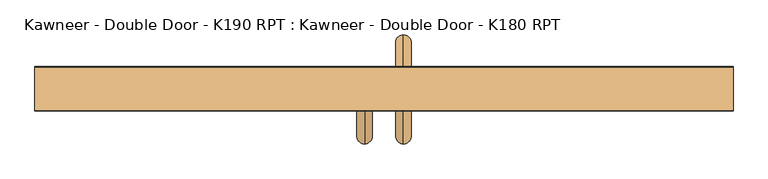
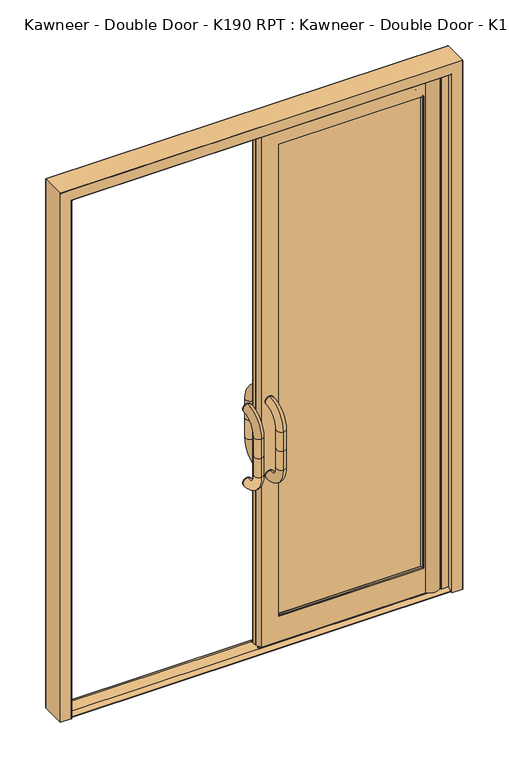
"""IFC4 building model written with IfcOpenShell, lengths in millimetres: door geometry, Kawneer - Double Door - K190 RPT : Kawneer - Double Door - K180 RPT."""

from ifc_helpers import new_model, si_unit, point, frame, frame_2d, origin, origin_with_axes, place, context, project, spatial, polyline, circle_curve, ellipse_curve, trimmed, segment, composite_curve, outline, extrude, faceted_brep, source, transform, mapped, element, save
from ifc_brep_helpers import plane_surface, cylinder_surface, revolved_surface, advanced_brep


def kawneer_double_door_k190_rpt_kawneer_double_door_k180_rpt_f8135a16(model_context):
    return source(origin(), model_context, "Body", "SolidModel", [
        advanced_brep(
        [(50.05, -114.3028137, 910.0), (50.05, -9.45, 805.1471863), (50.05, -9.45, 845.1471863), (50.05, -74.3028137, 910.0), (50.05, -74.3028137, 1000.0), (50.05, -114.3028137, 1000.0), (50.05, -74.3028137, 1090.0), (50.05, -114.3028137, 1090.0), (50.05, -9.45, 1194.8528137), (50.05, -9.45, 1154.8528137), (50.05, -4.45, 805.1471863), (50.05, -4.45, 845.1471863), (50.05, -4.45, 1154.8528137), (50.05, -4.45, 1194.8528137)],
        [
            (0, 1, circle_curve(frame((50.05, -9.45, 910.0), z_axis=(1.0, 0.0, 0.0), x_axis=(0.0, 0.0, -1.0)), 104.8528137)),
            (1, 2, circle_curve(frame((50.05, -9.45, 825.1471863), z_axis=(0.0, -1.0, 0.0), x_axis=(0.0, 0.0, -1.0)), 20.0)),
            (2, 3, circle_curve(frame((50.05, -9.45, 910.0), z_axis=(-1.0, 0.0, 0.0), x_axis=(0.0, 0.0, -1.0)), 64.8528137)),
            (3, 0, circle_curve(frame((50.05, -94.3028137, 910.0), z_axis=(0.0, 0.0, -1.0), x_axis=(0.0, -1.0, 0.0)), 20.0)),
            (2, 1, circle_curve(frame((50.05, -9.45, 825.1471863), z_axis=(0.0, -1.0, 0.0), x_axis=(0.0, 0.0, -1.0)), 20.0)),
            (0, 3, circle_curve(frame((50.05, -94.3028137, 910.0), z_axis=(0.0, 0.0, -1.0), x_axis=(0.0, -1.0, 0.0)), 20.0)),
            (3, 4),
            (4, 5, circle_curve(frame((50.05, -94.3028137, 1000.0), z_axis=(0.0, 0.0, -1.0), x_axis=(0.0, -1.0, 0.0)), 20.0)),
            (5, 0),
            (5, 4, circle_curve(frame((50.05, -94.3028137, 1000.0), z_axis=(0.0, 0.0, -1.0), x_axis=(0.0, -1.0, 0.0)), 20.0)),
            (4, 6),
            (6, 7, circle_curve(frame((50.05, -94.3028137, 1090.0), z_axis=(0.0, 0.0, -1.0), x_axis=(0.0, -1.0, 0.0)), 20.0)),
            (7, 5),
            (7, 6, circle_curve(frame((50.05, -94.3028137, 1090.0), z_axis=(0.0, 0.0, -1.0), x_axis=(0.0, -1.0, 0.0)), 20.0)),
            (8, 7, circle_curve(frame((50.05, -9.45, 1090.0), z_axis=(1.0, 0.0, 0.0), x_axis=(0.0, -1.0, 0.0)), 104.8528137)),
            (6, 9, circle_curve(frame((50.05, -9.45, 1090.0), z_axis=(-1.0, 0.0, 0.0), x_axis=(0.0, -1.0, 0.0)), 64.8528137)),
            (9, 8, circle_curve(frame((50.05, -9.45, 1174.8528137), z_axis=(0.0, -1.0, 0.0), x_axis=(0.0, 0.0, 1.0)), 20.0)),
            (8, 9, circle_curve(frame((50.05, -9.45, 1174.8528137), z_axis=(0.0, -1.0, 0.0), x_axis=(0.0, 0.0, 1.0)), 20.0)),
            (10, 11, circle_curve(frame((50.05, -4.45, 825.1471863), z_axis=(0.0, -1.0, 0.0), x_axis=(0.0, 0.0, -1.0)), 20.0)),
            (11, 2),
            (1, 10),
            (11, 10, circle_curve(frame((50.05, -4.45, 825.1471863), z_axis=(0.0, -1.0, 0.0), x_axis=(0.0, 0.0, -1.0)), 20.0)),
            (9, 12),
            (12, 13, circle_curve(frame((50.05, -4.45, 1174.8528137), z_axis=(0.0, -1.0, 0.0), x_axis=(0.0, 0.0, 1.0)), 20.0)),
            (13, 8),
            (13, 12, circle_curve(frame((50.05, -4.45, 1174.8528137), z_axis=(0.0, -1.0, 0.0), x_axis=(0.0, 0.0, 1.0)), 20.0)),
        ],
        [
            revolved_surface(trimmed(ellipse_curve(frame((50.05, -9.45, 825.1471863), z_axis=(0.0, 1.0, 0.0), x_axis=(0.0, 0.0, -1.0)), 20.0, 20.0), [point((50.05, -9.45, 845.1471863))], [point((50.05, -9.45, 805.1471863))], True, "CARTESIAN"), (50.05, -9.45, 910.0), (-1.0, 0.0, 0.0)),
            revolved_surface(trimmed(ellipse_curve(frame((50.05, -9.45, 825.1471863), z_axis=(0.0, 1.0, 0.0), x_axis=(0.0, 0.0, -1.0)), 20.0, 20.0), [point((50.05, -9.45, 805.1471863))], [point((50.05, -9.45, 845.1471863))], True, "CARTESIAN"), (50.05, -9.45, 910.0), (-1.0, 0.0, 0.0)),
            cylinder_surface(frame((50.05, -94.3028137, 910.0), z_axis=(0.0, 0.0, -1.0), x_axis=(0.0, -1.0, 0.0)), 20.0),
            cylinder_surface(frame((50.05, -94.3028137, 1000.0), z_axis=(0.0, 0.0, -1.0), x_axis=(0.0, -1.0, 0.0)), 20.0),
            revolved_surface(trimmed(ellipse_curve(frame((50.05, -94.3028137, 1090.0), z_axis=(0.0, 0.0, -1.0), x_axis=(0.0, -1.0, 0.0)), 20.0, 20.0), [point((50.05, -74.3028137, 1090.0))], [point((50.05, -114.3028137, 1090.0))], True, "CARTESIAN"), (50.05, -9.45, 1090.0), (-1.0, 0.0, 0.0)),
            revolved_surface(trimmed(ellipse_curve(frame((50.05, -94.3028137, 1090.0), z_axis=(0.0, 0.0, -1.0), x_axis=(0.0, -1.0, 0.0)), 20.0, 20.0), [point((50.05, -114.3028137, 1090.0))], [point((50.05, -74.3028137, 1090.0))], True, "CARTESIAN"), (50.05, -9.45, 1090.0), (-1.0, 0.0, 0.0)),
            cylinder_surface(frame((50.05, -4.45, 825.1471863), z_axis=(0.0, 1.0, 0.0), x_axis=(0.0, 0.0, -1.0)), 20.0),
            cylinder_surface(frame((50.05, -9.45, 1174.8528137), z_axis=(0.0, -1.0, 0.0), x_axis=(0.0, 0.0, 1.0)), 20.0),
            plane_surface(frame((50.05, -4.45, 825.1471863), z_axis=(0.0, 1.0, 0.0), x_axis=(-1.0, 0.0, 0.0))),
            plane_surface(frame((50.05, -4.45, 1174.8528137), z_axis=(0.0, 1.0, 0.0), x_axis=(-1.0, 0.0, 0.0))),
        ],
        [
            (0, [[1, 2, 3, 4]]),
            (1, [[-3, 5, -1, 6]]),
            (2, [[-4, 7, 8, 9]]),
            (2, [[-6, -9, 10, -7]]),
            (3, [[-8, 11, 12, 13]]),
            (3, [[-10, -13, 14, -11]]),
            (4, [[15, -12, 16, 17]]),
            (5, [[-16, -14, -15, 18]]),
            (6, [[19, 20, -2, 21]]),
            (6, [[22, -21, -5, -20]]),
            (7, [[-17, 23, 24, 25]]),
            (7, [[-18, -25, 26, -23]]),
            (8, [[-19, -22]]),
            (9, [[-26, -24]]),
        ],
    ),
        advanced_brep(
        [(50.05, 167.3528137, 910.0), (50.05, 127.3528137, 910.0), (50.05, 62.5, 845.1471863), (50.05, 62.5, 805.1471863), (50.05, 167.3528137, 1000.0), (50.05, 127.3528137, 1000.0), (50.05, 167.3528137, 1090.0), (50.05, 127.3528137, 1090.0), (50.05, 62.5, 1194.8528137), (50.05, 62.5, 1154.8528137), (50.05, 57.5, 805.1471863), (50.05, 57.5, 845.1471863), (50.05, 57.5, 1194.8528137), (50.05, 57.5, 1154.8528137)],
        [
            (0, 1, circle_curve(frame((50.05, 147.3528137, 910.0), z_axis=(0.0, 0.0, -1.0), x_axis=(0.0, 1.0, 0.0)), 20.0)),
            (1, 2, circle_curve(frame((50.05, 62.5, 910.0), z_axis=(-1.0, 0.0, 0.0), x_axis=(0.0, 0.0, -1.0)), 64.8528137)),
            (2, 3, circle_curve(frame((50.05, 62.5, 825.1471863), z_axis=(0.0, 1.0, 0.0), x_axis=(0.0, 0.0, -1.0)), 20.0)),
            (3, 0, circle_curve(frame((50.05, 62.5, 910.0), z_axis=(1.0, 0.0, 0.0), x_axis=(0.0, 0.0, -1.0)), 104.8528137)),
            (1, 0, circle_curve(frame((50.05, 147.3528137, 910.0), z_axis=(0.0, 0.0, -1.0), x_axis=(0.0, 1.0, 0.0)), 20.0)),
            (3, 2, circle_curve(frame((50.05, 62.5, 825.1471863), z_axis=(0.0, 1.0, 0.0), x_axis=(0.0, 0.0, -1.0)), 20.0)),
            (0, 4),
            (4, 5, circle_curve(frame((50.05, 147.3528137, 1000.0), z_axis=(0.0, 0.0, -1.0), x_axis=(0.0, 1.0, 0.0)), 20.0)),
            (5, 1),
            (5, 4, circle_curve(frame((50.05, 147.3528137, 1000.0), z_axis=(0.0, 0.0, -1.0), x_axis=(0.0, 1.0, 0.0)), 20.0)),
            (4, 6),
            (6, 7, circle_curve(frame((50.05, 147.3528137, 1090.0), z_axis=(0.0, 0.0, -1.0), x_axis=(0.0, 1.0, 0.0)), 20.0)),
            (7, 5),
            (7, 6, circle_curve(frame((50.05, 147.3528137, 1090.0), z_axis=(0.0, 0.0, -1.0), x_axis=(0.0, 1.0, 0.0)), 20.0)),
            (8, 9, circle_curve(frame((50.05, 62.5, 1174.8528137), z_axis=(0.0, 1.0, 0.0), x_axis=(0.0, 0.0, 1.0)), 20.0)),
            (9, 7, circle_curve(frame((50.05, 62.5, 1090.0), z_axis=(-1.0, 0.0, 0.0), x_axis=(0.0, 1.0, 0.0)), 64.8528137)),
            (6, 8, circle_curve(frame((50.05, 62.5, 1090.0), z_axis=(1.0, 0.0, 0.0), x_axis=(0.0, 1.0, 0.0)), 104.8528137)),
            (9, 8, circle_curve(frame((50.05, 62.5, 1174.8528137), z_axis=(0.0, 1.0, 0.0), x_axis=(0.0, 0.0, 1.0)), 20.0)),
            (10, 3),
            (2, 11),
            (11, 10, circle_curve(frame((50.05, 57.5, 825.1471863), z_axis=(0.0, 1.0, 0.0), x_axis=(0.0, 0.0, -1.0)), 20.0)),
            (10, 11, circle_curve(frame((50.05, 57.5, 825.1471863), z_axis=(0.0, 1.0, 0.0), x_axis=(0.0, 0.0, -1.0)), 20.0)),
            (8, 12),
            (12, 13, circle_curve(frame((50.05, 57.5, 1174.8528137), z_axis=(0.0, 1.0, 0.0), x_axis=(0.0, 0.0, 1.0)), 20.0)),
            (13, 9),
            (13, 12, circle_curve(frame((50.05, 57.5, 1174.8528137), z_axis=(0.0, 1.0, 0.0), x_axis=(0.0, 0.0, 1.0)), 20.0)),
        ],
        [
            revolved_surface(trimmed(ellipse_curve(frame((50.05, 62.5, 825.1471863), z_axis=(0.0, 1.0, 0.0), x_axis=(0.0, 0.0, -1.0)), 20.0, 20.0), [point((50.05, 62.5, 845.1471863))], [point((50.05, 62.5, 805.1471863))], True, "CARTESIAN"), (50.05, 62.5, 910.0), (-1.0, 0.0, 0.0)),
            revolved_surface(trimmed(ellipse_curve(frame((50.05, 62.5, 825.1471863), z_axis=(0.0, 1.0, 0.0), x_axis=(0.0, 0.0, -1.0)), 20.0, 20.0), [point((50.05, 62.5, 805.1471863))], [point((50.05, 62.5, 845.1471863))], True, "CARTESIAN"), (50.05, 62.5, 910.0), (-1.0, 0.0, 0.0)),
            cylinder_surface(frame((50.05, 147.3528137, 910.0), z_axis=(0.0, 0.0, -1.0), x_axis=(0.0, 1.0, 0.0)), 20.0),
            cylinder_surface(frame((50.05, 147.3528137, 1000.0), z_axis=(0.0, 0.0, -1.0), x_axis=(0.0, 1.0, 0.0)), 20.0),
            revolved_surface(trimmed(ellipse_curve(frame((50.05, 147.3528137, 1090.0), z_axis=(0.0, 0.0, 1.0), x_axis=(0.0, 1.0, 0.0)), 20.0, 20.0), [point((50.05, 127.3528137, 1090.0))], [point((50.05, 167.3528137, 1090.0))], True, "CARTESIAN"), (50.05, 62.5, 1090.0), (-1.0, 0.0, 0.0)),
            revolved_surface(trimmed(ellipse_curve(frame((50.05, 147.3528137, 1090.0), z_axis=(0.0, 0.0, 1.0), x_axis=(0.0, 1.0, 0.0)), 20.0, 20.0), [point((50.05, 167.3528137, 1090.0))], [point((50.05, 127.3528137, 1090.0))], True, "CARTESIAN"), (50.05, 62.5, 1090.0), (-1.0, 0.0, 0.0)),
            cylinder_surface(frame((50.05, 57.5, 825.1471863), z_axis=(0.0, -1.0, 0.0), x_axis=(0.0, 0.0, -1.0)), 20.0),
            cylinder_surface(frame((50.05, 62.5, 1174.8528137), z_axis=(0.0, 1.0, 0.0), x_axis=(0.0, 0.0, 1.0)), 20.0),
            plane_surface(frame((50.05, 57.5, 825.1471863), z_axis=(0.0, -1.0, 0.0), x_axis=(-1.0, 0.0, 0.0))),
            plane_surface(frame((50.05, 57.5, 1174.8528137), z_axis=(0.0, -1.0, 0.0), x_axis=(-1.0, 0.0, 0.0))),
        ],
        [
            (0, [[1, 2, 3, 4]]),
            (1, [[5, -4, 6, -2]]),
            (2, [[7, 8, 9, -1]]),
            (2, [[-9, 10, -7, -5]]),
            (3, [[11, 12, 13, -8]]),
            (3, [[-13, 14, -11, -10]]),
            (4, [[15, 16, -12, 17]]),
            (5, [[18, -17, -14, -16]]),
            (6, [[19, -3, 20, 21]]),
            (6, [[-20, -6, -19, 22]]),
            (7, [[23, 24, 25, -15]]),
            (7, [[-25, 26, -23, -18]]),
            (8, [[-22, -21]]),
            (9, [[-24, -26]]),
        ],
    ),
        extrude(outline(polyline([(51.1993192, 12.7), (48.3010676, 12.7), (48.7760702, 19.7), (50.7240537, 19.7), (51.1993192, 12.7)])), frame((3.230833, 0.0, 0.0), z_axis=(1.0, 0.0, 0.0), x_axis=(0.0, 1.0, 0.0)), (0.0, 0.0, 1.0), 814.7159948),
        extrude(outline(polyline([(1.8010676, 12.7), (2.2760702, 19.7), (4.2240537, 19.7), (4.6993192, 12.7), (1.8010676, 12.7)])), frame((3.230833, 0.0, 0.0), z_axis=(1.0, 0.0, 0.0), x_axis=(0.0, 1.0, 0.0)), (0.0, 0.0, 1.0), 814.7159948),
        extrude(outline(polyline([(0.0, 33.6207879), (3.230833, 33.6207879), (3.230833, 21.3792121), (0.0, 21.3792121), (0.0, 33.6207879)])), frame((0.0, 0.0, 19.7), z_axis=(0.0, 0.0, 1.0), x_axis=(1.0, 0.0, 0.0)), (0.0, 0.0, 1.0), 2427.155),
        extrude(outline(composite_curve([segment(trimmed(circle_curve(frame_2d((779.85, 27.5)), 45.0), [point((819.211122, 49.3105955))], [point((818.0117287, 51.347064))], True, "CARTESIAN"), True, "CONTINUOUS"), segment(polyline([(818.0117287, 51.347064), (821.4447986, 52.6728674), (822.2348697, 50.9785545), (819.211122, 49.3105955)]), True, "CONTINUOUS")], self_intersect=False)), frame((0.0, 0.0, 19.7), z_axis=(0.0, 0.0, 1.0), x_axis=(1.0, 0.0, 0.0)), (0.0, 0.0, 1.0), 2427.155),
        extrude(outline(composite_curve([segment(polyline([(819.1570135, 5.5920405), (822.243322, 3.8895716), (821.453251, 2.1952588), (817.9468278, 3.5493901)]), True, "CONTINUOUS"), segment(trimmed(circle_curve(frame_2d((779.85, 27.5)), 45.0), [point((817.9468278, 3.5493901))], [point((819.1570135, 5.5920405))], True, "CARTESIAN"), True, "CONTINUOUS")], self_intersect=False)), frame((0.0, 0.0, 19.7), z_axis=(0.0, 0.0, 1.0), x_axis=(1.0, 0.0, 0.0)), (0.0, 0.0, 1.0), 2427.155),
        extrude(outline(polyline([(77.15, 42.7), (752.05, 42.7), (752.05, 33.7), (77.15, 33.7), (77.15, 42.7)])), frame((0.0, 0.0, 124.6999998), z_axis=(0.0, 0.0, 1.0), x_axis=(1.0, 0.0, 0.0)), (0.0, 0.0, 1.0), 2258.7000002),
        extrude(outline(polyline([(77.15, 17.7), (752.05, 17.7), (752.05, 8.7), (77.15, 8.7), (77.15, 17.7)])), frame((0.0, 0.0, 124.6999998), z_axis=(0.0, 0.0, 1.0), x_axis=(1.0, 0.0, 0.0)), (0.0, 0.0, 1.0), 2258.7000002),
        faceted_brep([(740.05, 33.7, 136.7), (89.15, 33.7, 136.7), (89.15, 26.9, 136.7), (740.05, 26.9, 136.7), (752.05, 17.7, 124.7), (77.15, 17.7, 124.7), (77.15, 33.7, 124.7), (752.05, 33.7, 124.7), (740.05, 24.5, 136.7), (89.15, 24.5, 136.7), (89.15, 17.7, 136.7), (740.05, 17.7, 136.7), (741.25, 25.7, 135.5), (87.95, 25.7, 135.5), (89.15, 33.7, 2371.4), (740.05, 33.7, 2371.4), (740.05, 26.9, 2371.4), (89.15, 26.9, 2371.4), (77.15, 17.7, 2383.4), (752.05, 17.7, 2383.4), (752.05, 33.7, 2383.4), (77.15, 33.7, 2383.4), (89.15, 24.5, 2371.4), (740.05, 24.5, 2371.4), (740.05, 17.7, 2371.4), (89.15, 17.7, 2371.4), (87.95, 25.7, 2372.6), (741.25, 25.7, 2372.6)], [[[0, 1, 2, 3]], [[4, 5, 6, 7]], [[8, 9, 10, 11]], [[12, 13, 9, 8]], [[3, 2, 13, 12]], [[14, 15, 16, 17]], [[18, 19, 20, 21]], [[22, 23, 24, 25]], [[26, 27, 23, 22]], [[17, 16, 27, 26]], [[15, 0, 3, 16]], [[19, 4, 7, 20]], [[23, 8, 11, 24]], [[27, 12, 8, 23]], [[16, 3, 12, 27]], [[1, 14, 17, 2]], [[21, 20, 7, 6], [14, 1, 0, 15]], [[5, 18, 21, 6]], [[18, 5, 4, 19], [25, 24, 11, 10]], [[9, 22, 25, 10]], [[13, 26, 22, 9]], [[2, 17, 26, 13]]]),
        advanced_brep(
        [(734.2718271, 7.6752861, 142.4781729), (94.9281729, 7.6752861, 142.4781729), (89.6712771, 3.75, 137.2212771), (739.5287229, 3.75, 137.2212771), (734.3853911, 8.7, 142.3646089), (94.8146089, 8.7, 142.3646089), (749.3, 3.75, 127.45), (79.9, 3.75, 127.45), (79.9, 8.7, 127.45), (749.3, 8.7, 127.45), (94.9281729, 7.6752861, 2365.6218271), (734.2718271, 7.6752861, 2365.6218271), (739.5287229, 3.75, 2370.8787229), (89.6712771, 3.75, 2370.8787229), (94.8146089, 8.7, 2365.7353911), (734.3853911, 8.7, 2365.7353911), (79.9, 3.75, 2380.65), (749.3, 3.75, 2380.65), (749.3, 8.7, 2380.65), (79.9, 8.7, 2380.65)],
        [
            (0, 1),
            (1, 2),
            (2, 3),
            (3, 0),
            (4, 5),
            (5, 1, ellipse_curve(frame((94.5662313, 8.1538237, 142.1162313), z_axis=(0.7071067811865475, 0.0, -0.7071067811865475), x_axis=(0.7071067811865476, 0.0, 0.7071067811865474)), 0.8485281, 0.6)),
            (0, 4, ellipse_curve(frame((734.6337687, 8.1538237, 142.1162313), z_axis=(-0.7071067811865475, 0.0, -0.7071067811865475), x_axis=(0.7071067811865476, 0.0, -0.7071067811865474)), 0.8485281, 0.6)),
            (6, 7),
            (7, 8),
            (8, 9),
            (9, 6),
            (10, 11),
            (11, 12),
            (12, 13),
            (13, 10),
            (14, 15),
            (15, 11, ellipse_curve(frame((734.6337687, 8.1538237, 2365.9837687), z_axis=(-0.7071067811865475, 0.0, 0.7071067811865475), x_axis=(-0.7071067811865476, 0.0, -0.7071067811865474)), 0.8485281, 0.6)),
            (10, 14, ellipse_curve(frame((94.5662313, 8.1538237, 2365.9837687), z_axis=(0.7071067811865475, 0.0, 0.7071067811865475), x_axis=(-0.7071067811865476, 0.0, 0.7071067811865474)), 0.8485281, 0.6)),
            (16, 17),
            (17, 18),
            (18, 19),
            (19, 16),
            (11, 0),
            (3, 12),
            (15, 4),
            (17, 6),
            (9, 18),
            (16, 7),
            (2, 13),
            (1, 10),
            (5, 14),
            (8, 19),
        ],
        [
            plane_surface(frame((739.5287229, 3.75, 137.2212771), z_axis=(0.0, -0.8012701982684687, 0.5983026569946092), x_axis=(-1.0, 0.0, 0.0))),
            cylinder_surface(frame((738.85, 8.1538237, 142.1162313), z_axis=(1.0, 0.0, 0.0), x_axis=(0.0, 0.0, 1.0)), 0.6),
            plane_surface(frame((749.3, 8.7, 127.45), z_axis=(0.0, 0.0, -1.0), x_axis=(-1.0, 0.0, 0.0))),
            plane_surface(frame((89.6712771, 3.75, 2370.8787229), z_axis=(0.0, -0.8012701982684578, -0.5983026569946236), x_axis=(1.0, 0.0, 0.0))),
            cylinder_surface(frame((90.35, 8.1538237, 2365.9837687), z_axis=(-1.0, 0.0, 0.0), x_axis=(0.0, 0.0, -1.0)), 0.6),
            plane_surface(frame((79.9, 8.7, 2380.65), z_axis=(0.0, 0.0, 1.0), x_axis=(1.0, 0.0, 0.0))),
            plane_surface(frame((739.5287229, 3.75, 2370.8787229), z_axis=(-0.5983026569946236, -0.8012701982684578, 0.0), x_axis=(0.0, 0.0, -1.0))),
            cylinder_surface(frame((734.6337687, 8.1538237, 2370.2), z_axis=(0.0, 0.0, 1.0), x_axis=(-1.0, 0.0, 0.0)), 0.6),
            plane_surface(frame((749.3, 8.7, 2380.65), z_axis=(1.0, 0.0, 0.0), x_axis=(0.0, 0.0, -1.0))),
            plane_surface(frame((79.9, 3.75, 127.45), z_axis=(0.0, -1.0, 0.0), x_axis=(0.0, 0.0, 1.0))),
            plane_surface(frame((89.6712771, 3.75, 137.2212771), z_axis=(0.5983026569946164, -0.8012701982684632, 0.0), x_axis=(0.0, 0.0, 1.0))),
            cylinder_surface(frame((94.5662313, 8.1538237, 137.9), z_axis=(0.0, 0.0, -1.0), x_axis=(1.0, 0.0, 0.0)), 0.6),
            plane_surface(frame((94.8146089, 8.7, 142.3646089), z_axis=(0.0, 1.0, 0.0), x_axis=(0.0, 0.0, 1.0))),
            plane_surface(frame((79.9, 8.7, 127.45), z_axis=(-1.0, 0.0, 0.0), x_axis=(0.0, 0.0, 1.0))),
        ],
        [
            (0, [[1, 2, 3, 4]]),
            (1, [[5, 6, -1, 7]]),
            (2, [[8, 9, 10, 11]]),
            (3, [[12, 13, 14, 15]]),
            (4, [[16, 17, -12, 18]]),
            (5, [[19, 20, 21, 22]]),
            (6, [[23, -4, 24, -13]]),
            (7, [[25, -7, -23, -17]]),
            (8, [[26, -11, 27, -20]]),
            (9, [[28, -8, -26, -19], [-14, -24, -3, 29]]),
            (10, [[30, -15, -29, -2]]),
            (11, [[31, -18, -30, -6]]),
            (12, [[-21, -27, -10, 32], [-31, -5, -25, -16]]),
            (13, [[-28, -22, -32, -9]]),
        ],
    ),
        advanced_brep(
        [(749.3, 42.7, 127.45), (79.9, 42.7, 127.45), (79.9, 47.65, 127.45), (749.3, 47.65, 127.45), (734.2718271, 43.7247139, 142.4781729), (94.9281729, 43.7247139, 142.4781729), (94.8146089, 42.7, 142.3646089), (734.3853911, 42.7, 142.3646089), (739.5287229, 47.65, 137.2212771), (89.6712771, 47.65, 137.2212771), (79.9, 42.7, 2380.65), (749.3, 42.7, 2380.65), (749.3, 47.65, 2380.65), (79.9, 47.65, 2380.65), (94.9281729, 43.7247139, 2365.6218271), (734.2718271, 43.7247139, 2365.6218271), (734.3853911, 42.7, 2365.7353911), (94.8146089, 42.7, 2365.7353911), (89.6712771, 47.65, 2370.8787229), (739.5287229, 47.65, 2370.8787229)],
        [
            (0, 1),
            (1, 2),
            (2, 3),
            (3, 0),
            (4, 5),
            (5, 6, ellipse_curve(frame((94.5662313, 43.2461763, 142.1162313), z_axis=(0.7071067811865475, 0.0, -0.7071067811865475), x_axis=(0.7071067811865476, 0.0, 0.7071067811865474)), 0.8485281, 0.6)),
            (6, 7),
            (7, 4, ellipse_curve(frame((734.6337687, 43.2461763, 142.1162313), z_axis=(-0.7071067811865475, 0.0, -0.7071067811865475), x_axis=(0.7071067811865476, 0.0, -0.7071067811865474)), 0.8485281, 0.6)),
            (8, 9),
            (9, 5),
            (4, 8),
            (10, 11),
            (11, 12),
            (12, 13),
            (13, 10),
            (14, 15),
            (15, 16, ellipse_curve(frame((734.6337687, 43.2461763, 2365.9837687), z_axis=(-0.7071067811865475, 0.0, 0.7071067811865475), x_axis=(-0.7071067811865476, 0.0, -0.7071067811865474)), 0.8485281, 0.6)),
            (16, 17),
            (17, 14, ellipse_curve(frame((94.5662313, 43.2461763, 2365.9837687), z_axis=(0.7071067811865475, 0.0, 0.7071067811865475), x_axis=(-0.7071067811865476, 0.0, 0.7071067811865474)), 0.8485281, 0.6)),
            (18, 19),
            (19, 15),
            (14, 18),
            (11, 0),
            (3, 12),
            (15, 4),
            (7, 16),
            (19, 8),
            (1, 10),
            (13, 2),
            (6, 17),
            (5, 14),
            (9, 18),
        ],
        [
            plane_surface(frame((749.3, 47.65, 127.45), z_axis=(0.0, 0.0, -1.0), x_axis=(-1.0, 0.0, 0.0))),
            cylinder_surface(frame((738.85, 43.2461763, 142.1162313), z_axis=(1.0, 0.0, 0.0), x_axis=(0.0, 0.0, 1.0)), 0.6),
            plane_surface(frame((734.2718271, 43.7247139, 142.4781729), z_axis=(0.0, 0.8012701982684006, 0.5983026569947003), x_axis=(-1.0, 0.0, 0.0))),
            plane_surface(frame((79.9, 47.65, 2380.65), z_axis=(0.0, 0.0, 1.0), x_axis=(1.0, 0.0, 0.0))),
            cylinder_surface(frame((90.35, 43.2461763, 2365.9837687), z_axis=(-1.0, 0.0, 0.0), x_axis=(0.0, 0.0, -1.0)), 0.6),
            plane_surface(frame((94.9281729, 43.7247139, 2365.6218271), z_axis=(0.0, 0.8012701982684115, -0.5983026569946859), x_axis=(1.0, 0.0, 0.0))),
            plane_surface(frame((749.3, 47.65, 2380.65), z_axis=(1.0, 0.0, 0.0), x_axis=(0.0, 0.0, -1.0))),
            cylinder_surface(frame((734.6337687, 43.2461763, 2370.2), z_axis=(0.0, 0.0, 1.0), x_axis=(-1.0, 0.0, 0.0)), 0.6),
            plane_surface(frame((734.2718271, 43.7247139, 2365.6218271), z_axis=(-0.5983026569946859, 0.8012701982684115, 0.0), x_axis=(0.0, 0.0, -1.0))),
            plane_surface(frame((79.9, 47.65, 127.45), z_axis=(-1.0, 0.0, 0.0), x_axis=(0.0, 0.0, 1.0))),
            plane_surface(frame((79.9, 42.7, 127.45), z_axis=(0.0, -1.0, 0.0), x_axis=(0.0, 0.0, 1.0))),
            cylinder_surface(frame((94.5662313, 43.2461763, 137.9), z_axis=(0.0, 0.0, -1.0), x_axis=(1.0, 0.0, 0.0)), 0.6),
            plane_surface(frame((94.9281729, 43.7247139, 142.4781729), z_axis=(0.5983026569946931, 0.8012701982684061, 0.0), x_axis=(0.0, 0.0, 1.0))),
            plane_surface(frame((89.6712771, 47.65, 137.2212771), z_axis=(0.0, 1.0, 0.0), x_axis=(0.0, 0.0, 1.0))),
        ],
        [
            (0, [[1, 2, 3, 4]]),
            (1, [[5, 6, 7, 8]]),
            (2, [[9, 10, -5, 11]]),
            (3, [[12, 13, 14, 15]]),
            (4, [[16, 17, 18, 19]]),
            (5, [[20, 21, -16, 22]]),
            (6, [[23, -4, 24, -13]]),
            (7, [[25, -8, 26, -17]]),
            (8, [[27, -11, -25, -21]]),
            (9, [[28, -15, 29, -2]]),
            (10, [[-28, -1, -23, -12], [-18, -26, -7, 30]]),
            (11, [[31, -19, -30, -6]]),
            (12, [[32, -22, -31, -10]]),
            (13, [[-14, -24, -3, -29], [-32, -9, -27, -20]]),
        ],
    ),
        extrude(outline(polyline([(817.55, 58.2), (850.05, 58.2), (850.05, -3.35), (817.55, -3.35), (817.55, -1.85), (819.5669158, -1.85), (833.2180725, 27.425), (819.5669158, 56.7), (817.55, 56.7), (817.55, 58.2)])), origin_with_axes(), (0.0, 0.0, 1.0), 2449.9932215),
        advanced_brep(
        [(822.4481066, 12.9947833, 2446.855), (746.3089803, 57.5, 2446.855), (11.0884758, 57.5, 2446.855), (3.230833, 34.2996735, 2446.855), (3.230833, 20.7003265, 2446.855), (12.2881322, -4.45, 2446.855), (748.1609246, -4.45, 2446.855), (77.15, 3.75, 2446.855), (68.95, 3.75, 2446.855), (68.95, 47.65, 2446.855), (77.15, 47.65, 2446.855), (822.4481066, 12.9947833, 19.7), (748.1609246, -4.45, 19.7), (12.2881322, -4.45, 19.7), (3.230833, 20.7003265, 19.7), (3.230833, 34.2996735, 19.7), (11.0884758, 57.5, 19.7), (746.3089803, 57.5, 19.7), (738.85, -4.45, 137.9), (90.35, -4.45, 137.9), (90.35, -4.45, 2370.2), (738.85, -4.45, 2370.2), (738.85, 3.25, 2370.2), (738.85, 3.25, 137.9), (739.35, 3.75, 2370.7), (739.35, 3.75, 137.4), (77.15, 3.75, 2391.6), (760.25, 3.75, 2391.6), (760.25, 3.75, 116.5), (68.95, 3.75, 116.5), (89.85, 3.75, 2370.7), (89.85, 3.75, 137.4), (760.25, 47.65, 2391.6), (760.25, 47.65, 116.5), (68.95, 47.65, 116.5), (77.15, 47.65, 2391.6), (739.35, 47.65, 137.4), (89.85, 47.65, 137.4), (89.85, 47.65, 2370.7), (739.35, 47.65, 2370.7), (738.85, 48.15, 2370.2), (738.85, 48.15, 137.9), (738.85, 57.5, 2370.2), (738.85, 57.5, 137.9), (90.35, 57.5, 2370.2), (90.35, 57.5, 137.9), (90.35, 3.25, 2370.2), (90.35, 48.15, 2370.2), (90.35, 48.15, 137.9), (90.35, 3.25, 137.9)],
        [
            (0, 1, circle_curve(frame((779.85, 27.5, 2446.855), z_axis=(0.0, 0.0, 1.0), x_axis=(-1.0, 0.0, 0.0)), 45.0)),
            (1, 2),
            (2, 3, circle_curve(frame((62.7112651, 27.0852433, 2446.855), z_axis=(0.0, 0.0, 1.0), x_axis=(-1.0, 0.0, 0.0)), 59.9163567)),
            (3, 4),
            (4, 5, circle_curve(frame((62.7112651, 27.9147567, 2446.855), z_axis=(0.0, 0.0, 1.0), x_axis=(-1.0, 0.0, 0.0)), 59.9163567)),
            (5, 6),
            (6, 0, circle_curve(frame((779.85, 27.5, 2446.855), z_axis=(0.0, 0.0, 1.0), x_axis=(-1.0, 0.0, 0.0)), 45.0)),
            (7, 8),
            (8, 9),
            (9, 10),
            (10, 7),
            (11, 12, circle_curve(frame((779.85, 27.5, 19.7), z_axis=(0.0, 0.0, -1.0), x_axis=(-1.0, 0.0, 0.0)), 45.0)),
            (12, 13),
            (13, 14, circle_curve(frame((62.7112651, 27.9147567, 19.7), z_axis=(0.0, 0.0, -1.0), x_axis=(-1.0, 0.0, 0.0)), 59.9163567)),
            (14, 15),
            (15, 16, circle_curve(frame((62.7112651, 27.0852433, 19.7), z_axis=(0.0, 0.0, -1.0), x_axis=(-1.0, 0.0, 0.0)), 59.9163567)),
            (16, 17),
            (17, 11, circle_curve(frame((779.85, 27.5, 19.7), z_axis=(0.0, 0.0, -1.0), x_axis=(-1.0, 0.0, 0.0)), 45.0)),
            (6, 12),
            (11, 0),
            (5, 13),
            (18, 19),
            (19, 20),
            (20, 21),
            (21, 18),
            (22, 23),
            (23, 18),
            (21, 22),
            (24, 25),
            (25, 23, ellipse_curve(frame((739.35, 3.25, 137.4), z_axis=(0.7071067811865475, 0.0, 0.7071067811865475), x_axis=(-0.7071067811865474, 0.0, 0.7071067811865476)), 0.7071068, 0.5)),
            (22, 24, ellipse_curve(frame((739.35, 3.25, 2370.7), z_axis=(0.7071067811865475, 0.0, -0.7071067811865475), x_axis=(0.7071067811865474, 0.0, 0.7071067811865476)), 0.7071068, 0.5)),
            (26, 27),
            (27, 28),
            (28, 29),
            (29, 8),
            (7, 26),
            (24, 30),
            (30, 31),
            (31, 25),
            (32, 33),
            (33, 28),
            (27, 32),
            (9, 34),
            (34, 33),
            (32, 35),
            (35, 10),
            (36, 37),
            (37, 38),
            (38, 39),
            (39, 36),
            (40, 41),
            (41, 36, ellipse_curve(frame((739.35, 48.15, 137.4), z_axis=(0.7071067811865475, 0.0, 0.7071067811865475), x_axis=(-0.7071067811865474, 0.0, 0.7071067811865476)), 0.7071068, 0.5)),
            (39, 40, ellipse_curve(frame((739.35, 48.15, 2370.7), z_axis=(0.7071067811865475, 0.0, -0.7071067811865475), x_axis=(0.7071067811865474, 0.0, 0.7071067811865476)), 0.7071068, 0.5)),
            (42, 43),
            (43, 41),
            (40, 42),
            (1, 17),
            (16, 2),
            (42, 44),
            (44, 45),
            (45, 43),
            (35, 26),
            (20, 46),
            (46, 22),
            (46, 30, ellipse_curve(frame((89.85, 3.25, 2370.7), z_axis=(0.7071067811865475, 0.0, 0.7071067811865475), x_axis=(-0.7071067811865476, 0.0, 0.7071067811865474)), 0.7071068, 0.5)),
            (38, 47, ellipse_curve(frame((89.85, 48.15, 2370.7), z_axis=(0.7071067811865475, 0.0, 0.7071067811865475), x_axis=(-0.7071067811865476, 0.0, 0.7071067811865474)), 0.7071068, 0.5)),
            (47, 40),
            (47, 44),
            (45, 48),
            (48, 41),
            (48, 37, ellipse_curve(frame((89.85, 48.15, 137.4), z_axis=(0.7071067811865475, 0.0, -0.7071067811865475), x_axis=(-0.7071067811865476, 0.0, -0.7071067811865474)), 0.7071068, 0.5)),
            (34, 29),
            (31, 49, ellipse_curve(frame((89.85, 3.25, 137.4), z_axis=(0.7071067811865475, 0.0, -0.7071067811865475), x_axis=(-0.7071067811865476, 0.0, -0.7071067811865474)), 0.7071068, 0.5)),
            (49, 23),
            (49, 19),
            (47, 48),
            (46, 49),
            (15, 3),
            (4, 14),
        ],
        [
            plane_surface(frame((734.85, 27.5, 2446.855), z_axis=(0.0, 0.0, 1.0), x_axis=(0.0, 1.0, 0.0))),
            plane_surface(frame((734.85, 27.5, 19.7), z_axis=(0.0, 0.0, -1.0), x_axis=(0.0, -1.0, 0.0))),
            cylinder_surface(frame((779.85, 27.5, 19.7), z_axis=(0.0, 0.0, 1.0), x_axis=(-1.0, 0.0, 0.0)), 45.0),
            plane_surface(frame((748.1609246, -4.45, 2446.855), z_axis=(0.0, -1.0, 0.0), x_axis=(0.0, 0.0, -1.0))),
            plane_surface(frame((738.85, -4.45, 2446.855), z_axis=(-1.0, 0.0, 0.0), x_axis=(0.0, 0.0, -1.0))),
            cylinder_surface(frame((739.35, 3.25, 19.7), z_axis=(0.0, 0.0, 1.0), x_axis=(-1.0, 0.0, 0.0)), 0.5),
            plane_surface(frame((739.35, 3.75, 2446.855), z_axis=(0.0, 1.0, 0.0), x_axis=(0.0, 0.0, -1.0))),
            plane_surface(frame((760.25, 3.75, 2446.855), z_axis=(-1.0, 0.0, 0.0), x_axis=(0.0, 0.0, -1.0))),
            plane_surface(frame((760.25, 47.65, 2446.855), z_axis=(0.0, -1.0, 0.0), x_axis=(0.0, 0.0, -1.0))),
            cylinder_surface(frame((739.35, 48.15, 19.7), z_axis=(0.0, 0.0, 1.0), x_axis=(-1.0, 0.0, 0.0)), 0.5),
            plane_surface(frame((738.85, 48.15, 2446.855), z_axis=(-1.0, 0.0, 0.0), x_axis=(0.0, 0.0, -1.0))),
            plane_surface(frame((738.85, 57.5, 2446.855), z_axis=(0.0, 1.0, 0.0), x_axis=(0.0, 0.0, -1.0))),
            plane_surface(frame((77.15, 3.25, 2370.2), z_axis=(-1.0, 0.0, 0.0), x_axis=(0.0, 1.0, 0.0))),
            plane_surface(frame((77.15, -4.45, 2370.2), z_axis=(0.0, 0.0, -1.0), x_axis=(1.0, 0.0, 0.0))),
            cylinder_surface(frame((795.05, 3.25, 2370.7), z_axis=(-1.0, 0.0, 0.0), x_axis=(0.0, 1.0, 0.0)), 0.5),
            plane_surface(frame((77.15, 3.75, 2391.6), z_axis=(0.0, 0.0, -1.0), x_axis=(1.0, 0.0, 0.0))),
            cylinder_surface(frame((795.05, 48.15, 2370.7), z_axis=(-1.0, 0.0, 0.0), x_axis=(0.0, 1.0, 0.0)), 0.5),
            plane_surface(frame((77.15, 48.15, 2370.2), z_axis=(0.0, -3.4165326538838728e-12, -1.0), x_axis=(1.0, 0.0, 0.0))),
            plane_surface(frame((25.05, 57.5, 137.9), z_axis=(0.0, 0.0, 1.0), x_axis=(1.0, 0.0, 0.0))),
            cylinder_surface(frame((795.05, 48.15, 137.4), z_axis=(-1.0, 0.0, 0.0), x_axis=(0.0, 1.0, 0.0)), 0.5),
            plane_surface(frame((25.05, 47.65, 116.5), z_axis=(0.0, 0.0, 1.0), x_axis=(1.0, 0.0, 0.0))),
            cylinder_surface(frame((795.05, 3.25, 137.4), z_axis=(-1.0, 0.0, 0.0), x_axis=(0.0, 1.0, 0.0)), 0.5),
            plane_surface(frame((25.05, 3.25, 137.9), z_axis=(0.0, 0.0, 1.0), x_axis=(1.0, 0.0, 0.0))),
            plane_surface(frame((90.35, 57.5, 2446.855), z_axis=(1.0, 0.0, 0.0), x_axis=(0.0, 0.0, -1.0))),
            cylinder_surface(frame((89.85, 48.15, 19.7), z_axis=(0.0, 0.0, 1.0), x_axis=(-1.0, 0.0, 0.0)), 0.5),
            plane_surface(frame((68.95, 47.65, 2446.855), z_axis=(1.0, 0.0, 0.0), x_axis=(0.0, 0.0, -1.0))),
            cylinder_surface(frame((89.85, 3.25, 19.7), z_axis=(0.0, 0.0, 1.0), x_axis=(-1.0, 0.0, 0.0)), 0.5),
            plane_surface(frame((90.35, 3.25, 2446.855), z_axis=(1.0, 0.0, 0.0), x_axis=(0.0, 0.0, -1.0))),
            cylinder_surface(frame((62.7112651, 27.0852433, 19.7), z_axis=(0.0, 0.0, 1.0), x_axis=(-1.0, 0.0, 0.0)), 59.9163567),
            cylinder_surface(frame((62.7112651, 27.9147567, 19.7), z_axis=(0.0, 0.0, 1.0), x_axis=(-1.0, 0.0, 0.0)), 59.9163567),
            plane_surface(frame((3.230833, 20.7003265, 2446.855), z_axis=(-1.0, 0.0, 0.0), x_axis=(0.0, 0.0, -1.0))),
        ],
        [
            (0, [[1, 2, 3, 4, 5, 6, 7], [8, 9, 10, 11]]),
            (1, [[12, 13, 14, 15, 16, 17, 18]]),
            (2, [[19, -12, 20, -7]]),
            (3, [[-19, -6, 21, -13], [22, 23, 24, 25]]),
            (4, [[26, 27, -25, 28]]),
            (5, [[29, 30, -26, 31]]),
            (6, [[32, 33, 34, 35, -8, 36], [37, 38, 39, -29]]),
            (7, [[40, 41, -33, 42]]),
            (8, [[43, 44, -40, 45, 46, -10], [47, 48, 49, 50]]),
            (9, [[51, 52, -50, 53]]),
            (10, [[54, 55, -51, 56]]),
            (11, [[57, -17, 58, -2], [59, 60, 61, -54]]),
            (2, [[-20, -18, -57, -1]]),
            (12, [[-36, -11, -46, 62]]),
            (13, [[-24, 63, 64, -28]]),
            (14, [[-64, 65, -37, -31]]),
            (15, [[-42, -32, -62, -45]]),
            (16, [[-49, 66, 67, -53]]),
            (17, [[-67, 68, -59, -56]]),
            (18, [[-61, 69, 70, -55]]),
            (19, [[-70, 71, -47, -52]]),
            (20, [[72, -34, -41, -44]]),
            (21, [[-39, 73, 74, -30]]),
            (22, [[-74, 75, -22, -27]]),
            (23, [[-68, 76, -69, -60]]),
            (24, [[-71, -76, -66, -48]]),
            (25, [[-72, -43, -9, -35]]),
            (26, [[-65, 77, -73, -38]]),
            (27, [[-75, -77, -63, -23]]),
            (28, [[-58, -16, 78, -3]]),
            (29, [[79, -14, -21, -5]]),
            (30, [[-78, -15, -79, -4]]),
        ],
    ),
        advanced_brep(
        [(899.5, -30.0, 0.0), (850.5, -30.0, 0.0), (850.0, -29.5, 0.0), (850.0, -24.3, 0.0), (-850.0, -24.3, 0.0), (-850.0, -29.5, 0.0), (-850.5, -30.0, 0.0), (-899.5, -30.0, 0.0), (-900.0, -29.5, 0.0), (-900.0, 84.5, 0.0), (-899.5, 85.0, 0.0), (-850.5, 85.0, 0.0), (-850.0, 84.5, 0.0), (-850.0, 77.3, 0.0), (850.0, 77.3, 0.0), (850.0, 84.5, 0.0), (850.5, 85.0, 0.0), (899.5, 85.0, 0.0), (900.0, 84.5, 0.0), (900.0, -29.5, 0.0), (899.5, -30.0, 2499.5), (-899.5, -30.0, 2499.5), (-850.5, -30.0, 2450.5), (850.5, -30.0, 2450.5), (850.0, -29.5, 2450.0), (850.0, 84.5, 2450.0), (850.0, 77.3, 2.5226623), (850.0, 76.8189993, 3.2563104), (850.0, 55.1, 12.7), (850.0, -2.1, 12.7), (850.0, -23.8189993, 3.2563104), (850.0, -24.3, 2.5226623), (-850.0, -24.3, 2.5226623), (-850.0, 84.5, 2450.0), (-850.0, -29.5, 2450.0), (-850.0, -23.8189993, 3.2563104), (-850.0, -2.1, 12.7), (-850.0, 55.1, 12.7), (-850.0, 76.8189993, 3.2563104), (-850.0, 77.3, 2.5226623), (-900.0, -29.5, 2500.0), (-900.0, 84.5, 2500.0), (-899.5, 85.0, 2499.5), (850.5, 85.0, 2450.5), (-850.5, 85.0, 2450.5), (899.5, 85.0, 2499.5), (900.0, 84.5, 2500.0), (900.0, -29.5, 2500.0)],
        [
            (0, 1),
            (1, 2, circle_curve(frame((850.5, -29.5, 0.0), z_axis=(0.0, 0.0, -1.0), x_axis=(0.0, -1.0, 0.0)), 0.5)),
            (2, 3),
            (3, 4),
            (4, 5),
            (5, 6, circle_curve(frame((-850.5, -29.5, 0.0), z_axis=(0.0, 0.0, -1.0), x_axis=(0.0, -1.0, 0.0)), 0.5)),
            (6, 7),
            (7, 8, circle_curve(frame((-899.5, -29.5, 0.0), z_axis=(0.0, 0.0, -1.0), x_axis=(0.0, -1.0, 0.0)), 0.5)),
            (8, 9),
            (9, 10, circle_curve(frame((-899.5, 84.5, 0.0), z_axis=(0.0, 0.0, -1.0), x_axis=(0.0, -1.0, 0.0)), 0.5)),
            (10, 11),
            (11, 12, circle_curve(frame((-850.5, 84.5, 0.0), z_axis=(0.0, 0.0, -1.0), x_axis=(0.0, -1.0, 0.0)), 0.5)),
            (12, 13),
            (13, 14),
            (14, 15),
            (15, 16, circle_curve(frame((850.5, 84.5, 0.0), z_axis=(0.0, 0.0, -1.0), x_axis=(0.0, -1.0, 0.0)), 0.5)),
            (16, 17),
            (17, 18, circle_curve(frame((899.5, 84.5, 0.0), z_axis=(0.0, 0.0, -1.0), x_axis=(0.0, -1.0, 0.0)), 0.5)),
            (18, 19),
            (19, 0, circle_curve(frame((899.5, -29.5, 0.0), z_axis=(0.0, 0.0, -1.0), x_axis=(0.0, -1.0, 0.0)), 0.5)),
            (0, 20),
            (20, 21),
            (21, 7),
            (6, 22),
            (22, 23),
            (23, 1),
            (23, 24, ellipse_curve(frame((850.5, -29.5, 2450.5), z_axis=(0.7071067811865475, 0.0, -0.7071067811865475), x_axis=(-0.7071067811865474, 0.0, -0.7071067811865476)), 0.7071068, 0.5)),
            (24, 2),
            (24, 25),
            (25, 15),
            (14, 26),
            (26, 27, circle_curve(frame((850.0, 76.5, 2.5226623), z_axis=(1.0, 0.0, 0.0), x_axis=(0.0, 1.0, 0.0)), 0.8)),
            (27, 28),
            (28, 29),
            (29, 30),
            (30, 31, circle_curve(frame((850.0, -23.5, 2.5226623), z_axis=(1.0, 0.0, 0.0), x_axis=(0.0, 1.0, 0.0)), 0.8)),
            (31, 3),
            (31, 32),
            (32, 4),
            (33, 34),
            (34, 5),
            (32, 35, circle_curve(frame((-850.0, -23.5, 2.5226623), z_axis=(-1.0, 0.0, 0.0), x_axis=(0.0, 1.0, 0.0)), 0.8)),
            (35, 36),
            (36, 37),
            (37, 38),
            (38, 39, circle_curve(frame((-850.0, 76.5, 2.5226623), z_axis=(-1.0, 0.0, 0.0), x_axis=(0.0, 1.0, 0.0)), 0.8)),
            (39, 13),
            (12, 33),
            (34, 22, ellipse_curve(frame((-850.5, -29.5, 2450.5), z_axis=(-0.7071067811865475, 0.0, -0.7071067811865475), x_axis=(-0.7071067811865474, 0.0, 0.7071067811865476)), 0.7071068, 0.5)),
            (21, 40, ellipse_curve(frame((-899.5, -29.5, 2499.5), z_axis=(-0.7071067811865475, 0.0, -0.7071067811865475), x_axis=(-0.7071067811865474, 0.0, 0.7071067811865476)), 0.7071068, 0.5)),
            (40, 8),
            (40, 41),
            (41, 9),
            (41, 42, ellipse_curve(frame((-899.5, 84.5, 2499.5), z_axis=(-0.7071067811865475, 0.0, -0.7071067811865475), x_axis=(-0.7071067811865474, 0.0, 0.7071067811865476)), 0.7071068, 0.5)),
            (42, 10),
            (16, 43),
            (43, 44),
            (44, 11),
            (42, 45),
            (45, 17),
            (44, 33, ellipse_curve(frame((-850.5, 84.5, 2450.5), z_axis=(-0.7071067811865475, 0.0, -0.7071067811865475), x_axis=(-0.7071067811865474, 0.0, 0.7071067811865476)), 0.7071068, 0.5)),
            (39, 26),
            (25, 43, ellipse_curve(frame((850.5, 84.5, 2450.5), z_axis=(0.7071067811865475, 0.0, -0.7071067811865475), x_axis=(-0.7071067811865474, 0.0, -0.7071067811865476)), 0.7071068, 0.5)),
            (45, 46, ellipse_curve(frame((899.5, 84.5, 2499.5), z_axis=(0.7071067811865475, 0.0, -0.7071067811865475), x_axis=(-0.7071067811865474, 0.0, -0.7071067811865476)), 0.7071068, 0.5)),
            (46, 18),
            (46, 47),
            (47, 19),
            (47, 20, ellipse_curve(frame((899.5, -29.5, 2499.5), z_axis=(0.7071067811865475, 0.0, -0.7071067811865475), x_axis=(-0.7071067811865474, 0.0, -0.7071067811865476)), 0.7071068, 0.5)),
            (38, 27),
            (37, 28),
            (36, 29),
            (35, 30),
            (34, 24),
            (33, 25),
            (41, 46),
            (40, 47),
        ],
        [
            plane_surface(frame((900.0, -30.0, 0.0), z_axis=(0.0, 0.0, -1.0), x_axis=(0.0, -1.0, 0.0))),
            plane_surface(frame((899.5, -30.0, 0.0), z_axis=(0.0, -1.0, 0.0), x_axis=(0.0, 0.0, 1.0))),
            cylinder_surface(frame((850.5, -29.5, 0.0), z_axis=(0.0, 0.0, -1.0), x_axis=(0.0, -1.0, 0.0)), 0.5),
            plane_surface(frame((850.0, -29.5, 0.0), z_axis=(-1.0, 0.0, 0.0), x_axis=(0.0, 0.0, 1.0))),
            plane_surface(frame((900.0, -24.3, 2.5226623), z_axis=(0.0, -1.0, 0.0), x_axis=(-1.0, 0.0, 0.0))),
            plane_surface(frame((-850.0, -29.5, 2450.0), z_axis=(1.0, 0.0, 0.0), x_axis=(0.0, 0.0, -1.0))),
            cylinder_surface(frame((-850.5, -29.5, 2500.0), z_axis=(0.0, 0.0, 1.0), x_axis=(0.0, -1.0, 0.0)), 0.5),
            cylinder_surface(frame((-899.5, -29.5, 2500.0), z_axis=(0.0, 0.0, 1.0), x_axis=(0.0, -1.0, 0.0)), 0.5),
            plane_surface(frame((-900.0, 84.5, 2500.0), z_axis=(-1.0, 0.0, 0.0), x_axis=(0.0, 0.0, -1.0))),
            cylinder_surface(frame((-899.5, 84.5, 2500.0), z_axis=(0.0, 0.0, 1.0), x_axis=(0.0, -1.0, 0.0)), 0.5),
            plane_surface(frame((850.5, 85.0, 0.0), z_axis=(0.0, 1.0, 0.0), x_axis=(0.0, 0.0, 1.0))),
            cylinder_surface(frame((-850.5, 84.5, 2500.0), z_axis=(0.0, 0.0, 1.0), x_axis=(0.0, -1.0, 0.0)), 0.5),
            plane_surface(frame((900.0, 77.3, 0.0), z_axis=(0.0, 1.0, -1.1200890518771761e-12), x_axis=(-1.0, 0.0, 0.0))),
            cylinder_surface(frame((850.5, 84.5, 0.0), z_axis=(0.0, 0.0, -1.0), x_axis=(0.0, -1.0, 0.0)), 0.5),
            cylinder_surface(frame((899.5, 84.5, 0.0), z_axis=(0.0, 0.0, -1.0), x_axis=(0.0, -1.0, 0.0)), 0.5),
            plane_surface(frame((900.0, 84.5, 0.0), z_axis=(1.0, 0.0, 0.0), x_axis=(0.0, 0.0, 1.0))),
            cylinder_surface(frame((899.5, -29.5, 0.0), z_axis=(0.0, 0.0, -1.0), x_axis=(0.0, -1.0, 0.0)), 0.5),
            cylinder_surface(frame((-900.0, 76.5, 2.5226623), z_axis=(1.0, 0.0, 0.0), x_axis=(0.0, 1.0, 0.0)), 0.8),
            plane_surface(frame((900.0, 76.8189993, 3.2563104), z_axis=(0.0, 0.398749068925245, 0.9170600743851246), x_axis=(-1.0, 0.0, 0.0))),
            plane_surface(frame((900.0, 55.1, 12.7), z_axis=(0.0, 0.0, 1.0), x_axis=(-1.0, 0.0, 0.0))),
            plane_surface(frame((900.0, -2.1, 12.7), z_axis=(0.0, -0.39874906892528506, 0.9170600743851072), x_axis=(-1.0, 0.0, 0.0))),
            cylinder_surface(frame((-900.0, -23.5, 2.5226623), z_axis=(1.0, 0.0, 0.0), x_axis=(0.0, 1.0, 0.0)), 0.8),
            cylinder_surface(frame((900.0, -29.5, 2450.5), z_axis=(1.0, 0.0, 0.0), x_axis=(0.0, -1.0, 0.0)), 0.5),
            plane_surface(frame((850.0, -29.5, 2450.0), z_axis=(0.0, 0.0, -1.0), x_axis=(-1.0, 0.0, 0.0))),
            cylinder_surface(frame((900.0, 84.5, 2450.5), z_axis=(1.0, 0.0, 0.0), x_axis=(0.0, -1.0, 0.0)), 0.5),
            cylinder_surface(frame((900.0, 84.5, 2499.5), z_axis=(1.0, 0.0, 0.0), x_axis=(0.0, -1.0, 0.0)), 0.5),
            plane_surface(frame((900.0, 84.5, 2500.0), z_axis=(0.0, 0.0, 1.0), x_axis=(-1.0, 0.0, 0.0))),
            cylinder_surface(frame((900.0, -29.5, 2499.5), z_axis=(1.0, 0.0, 0.0), x_axis=(0.0, -1.0, 0.0)), 0.5),
        ],
        [
            (0, [[1, 2, 3, 4, 5, 6, 7, 8, 9, 10, 11, 12, 13, 14, 15, 16, 17, 18, 19, 20]]),
            (1, [[-1, 21, 22, 23, -7, 24, 25, 26]]),
            (2, [[-2, -26, 27, 28]]),
            (3, [[-28, 29, 30, -15, 31, 32, 33, 34, 35, 36, 37, -3]]),
            (4, [[-4, -37, 38, 39]]),
            (5, [[40, 41, -5, -39, 42, 43, 44, 45, 46, 47, -13, 48]]),
            (6, [[-6, -41, 49, -24]]),
            (7, [[-8, -23, 50, 51]]),
            (8, [[52, 53, -9, -51]]),
            (9, [[-10, -53, 54, 55]]),
            (10, [[-17, 56, 57, 58, -11, -55, 59, 60]]),
            (11, [[-12, -58, 61, -48]]),
            (12, [[-14, -47, 62, -31]]),
            (13, [[-16, -30, 63, -56]]),
            (14, [[-18, -60, 64, 65]]),
            (15, [[-19, -65, 66, 67]]),
            (16, [[-20, -67, 68, -21]]),
            (17, [[69, -32, -62, -46]]),
            (18, [[-69, -45, 70, -33]]),
            (19, [[-70, -44, 71, -34]]),
            (20, [[-71, -43, 72, -35]]),
            (21, [[-72, -42, -38, -36]]),
            (22, [[-25, -49, 73, -27]]),
            (23, [[-29, -73, -40, 74]]),
            (24, [[-63, -74, -61, -57]]),
            (25, [[-59, -54, 75, -64]]),
            (26, [[-66, -75, -52, 76]]),
            (27, [[-22, -68, -76, -50]]),
        ],
    ),
        advanced_brep(
        [(-50.05, -114.3028137, 910.0), (-50.05, -74.3028137, 910.0), (-50.05, -9.45, 845.1471863), (-50.05, -9.45, 805.1471863), (-50.05, -114.3028137, 1000.0), (-50.05, -74.3028137, 1000.0), (-50.05, -114.3028137, 1090.0), (-50.05, -74.3028137, 1090.0), (-50.05, -9.45, 1194.8528137), (-50.05, -9.45, 1154.8528137), (-50.05, -4.45, 805.1471863), (-50.05, -4.45, 845.1471863), (-50.05, -4.45, 1194.8528137), (-50.05, -4.45, 1154.8528137)],
        [
            (0, 1, circle_curve(frame((-50.05, -94.3028137, 910.0), z_axis=(0.0, 0.0, -1.0), x_axis=(0.0, -1.0, 0.0)), 20.0)),
            (1, 2, circle_curve(frame((-50.05, -9.45, 910.0), z_axis=(1.0, 0.0, 0.0), x_axis=(0.0, 0.0, -1.0)), 64.8528137)),
            (2, 3, circle_curve(frame((-50.05, -9.45, 825.1471863), z_axis=(0.0, -1.0, 0.0), x_axis=(0.0, 0.0, -1.0)), 20.0)),
            (3, 0, circle_curve(frame((-50.05, -9.45, 910.0), z_axis=(-1.0, 0.0, 0.0), x_axis=(0.0, 0.0, -1.0)), 104.8528137)),
            (1, 0, circle_curve(frame((-50.05, -94.3028137, 910.0), z_axis=(0.0, 0.0, -1.0), x_axis=(0.0, -1.0, 0.0)), 20.0)),
            (3, 2, circle_curve(frame((-50.05, -9.45, 825.1471863), z_axis=(0.0, -1.0, 0.0), x_axis=(0.0, 0.0, -1.0)), 20.0)),
            (0, 4),
            (4, 5, circle_curve(frame((-50.05, -94.3028137, 1000.0), z_axis=(0.0, 0.0, -1.0), x_axis=(0.0, -1.0, 0.0)), 20.0)),
            (5, 1),
            (5, 4, circle_curve(frame((-50.05, -94.3028137, 1000.0), z_axis=(0.0, 0.0, -1.0), x_axis=(0.0, -1.0, 0.0)), 20.0)),
            (4, 6),
            (6, 7, circle_curve(frame((-50.05, -94.3028137, 1090.0), z_axis=(0.0, 0.0, -1.0), x_axis=(0.0, -1.0, 0.0)), 20.0)),
            (7, 5),
            (7, 6, circle_curve(frame((-50.05, -94.3028137, 1090.0), z_axis=(0.0, 0.0, -1.0), x_axis=(0.0, -1.0, 0.0)), 20.0)),
            (8, 9, circle_curve(frame((-50.05, -9.45, 1174.8528137), z_axis=(0.0, -1.0, 0.0), x_axis=(0.0, 0.0, 1.0)), 20.0)),
            (9, 7, circle_curve(frame((-50.05, -9.45, 1090.0), z_axis=(1.0, 0.0, 0.0), x_axis=(0.0, -1.0, 0.0)), 64.8528137)),
            (6, 8, circle_curve(frame((-50.05, -9.45, 1090.0), z_axis=(-1.0, 0.0, 0.0), x_axis=(0.0, -1.0, 0.0)), 104.8528137)),
            (9, 8, circle_curve(frame((-50.05, -9.45, 1174.8528137), z_axis=(0.0, -1.0, 0.0), x_axis=(0.0, 0.0, 1.0)), 20.0)),
            (10, 3),
            (2, 11),
            (11, 10, circle_curve(frame((-50.05, -4.45, 825.1471863), z_axis=(0.0, -1.0, 0.0), x_axis=(0.0, 0.0, -1.0)), 20.0)),
            (10, 11, circle_curve(frame((-50.05, -4.45, 825.1471863), z_axis=(0.0, -1.0, 0.0), x_axis=(0.0, 0.0, -1.0)), 20.0)),
            (8, 12),
            (12, 13, circle_curve(frame((-50.05, -4.45, 1174.8528137), z_axis=(0.0, -1.0, 0.0), x_axis=(0.0, 0.0, 1.0)), 20.0)),
            (13, 9),
            (13, 12, circle_curve(frame((-50.05, -4.45, 1174.8528137), z_axis=(0.0, -1.0, 0.0), x_axis=(0.0, 0.0, 1.0)), 20.0)),
        ],
        [
            revolved_surface(trimmed(ellipse_curve(frame((-50.05, -9.45, 825.1471863), z_axis=(0.0, -1.0, 0.0), x_axis=(0.0, 0.0, -1.0)), 20.0, 20.0), [point((-50.05, -9.45, 845.1471863))], [point((-50.05, -9.45, 805.1471863))], True, "CARTESIAN"), (-50.05, -9.45, 910.0), (1.0, 0.0, 0.0)),
            revolved_surface(trimmed(ellipse_curve(frame((-50.05, -9.45, 825.1471863), z_axis=(0.0, -1.0, 0.0), x_axis=(0.0, 0.0, -1.0)), 20.0, 20.0), [point((-50.05, -9.45, 805.1471863))], [point((-50.05, -9.45, 845.1471863))], True, "CARTESIAN"), (-50.05, -9.45, 910.0), (1.0, 0.0, 0.0)),
            cylinder_surface(frame((-50.05, -94.3028137, 910.0), z_axis=(0.0, 0.0, -1.0), x_axis=(0.0, -1.0, 0.0)), 20.0),
            cylinder_surface(frame((-50.05, -94.3028137, 1000.0), z_axis=(0.0, 0.0, -1.0), x_axis=(0.0, -1.0, 0.0)), 20.0),
            revolved_surface(trimmed(ellipse_curve(frame((-50.05, -94.3028137, 1090.0), z_axis=(0.0, 0.0, 1.0), x_axis=(0.0, -1.0, 0.0)), 20.0, 20.0), [point((-50.05, -74.3028137, 1090.0))], [point((-50.05, -114.3028137, 1090.0))], True, "CARTESIAN"), (-50.05, -9.45, 1090.0), (1.0, 0.0, 0.0)),
            revolved_surface(trimmed(ellipse_curve(frame((-50.05, -94.3028137, 1090.0), z_axis=(0.0, 0.0, 1.0), x_axis=(0.0, -1.0, 0.0)), 20.0, 20.0), [point((-50.05, -114.3028137, 1090.0))], [point((-50.05, -74.3028137, 1090.0))], True, "CARTESIAN"), (-50.05, -9.45, 1090.0), (1.0, 0.0, 0.0)),
            cylinder_surface(frame((-50.05, -4.45, 825.1471863), z_axis=(0.0, 1.0, 0.0), x_axis=(0.0, 0.0, -1.0)), 20.0),
            cylinder_surface(frame((-50.05, -9.45, 1174.8528137), z_axis=(0.0, -1.0, 0.0), x_axis=(0.0, 0.0, 1.0)), 20.0),
            plane_surface(frame((-50.05, -4.45, 825.1471863), z_axis=(0.0, 1.0, 0.0), x_axis=(1.0, 0.0, 0.0))),
            plane_surface(frame((-50.05, -4.45, 1174.8528137), z_axis=(0.0, 1.0, 0.0), x_axis=(1.0, 0.0, 0.0))),
        ],
        [
            (0, [[1, 2, 3, 4]]),
            (1, [[5, -4, 6, -2]]),
            (2, [[7, 8, 9, -1]]),
            (2, [[-9, 10, -7, -5]]),
            (3, [[11, 12, 13, -8]]),
            (3, [[-13, 14, -11, -10]]),
            (4, [[15, 16, -12, 17]]),
            (5, [[18, -17, -14, -16]]),
            (6, [[19, -3, 20, 21]]),
            (6, [[-20, -6, -19, 22]]),
            (7, [[23, 24, 25, -15]]),
            (7, [[-25, 26, -23, -18]]),
            (8, [[-22, -21]]),
            (9, [[-24, -26]]),
        ],
    ),
    ])


if __name__ == "__main__":
    model = new_model("IFC4")
    model_context = context("Model", 3, world=origin())
    ifc_project = project(units=[si_unit("LENGTHUNIT", "METRE", prefix="MILLI")], contexts=[model_context])
    site = spatial("IfcSite", under=ifc_project)
    building = spatial("IfcBuilding", under=site)
    placement = place(None, origin())
    kawneer_double_door_k190_rpt_kawneer_double_door_k180_rpt_shape = kawneer_double_door_k190_rpt_kawneer_double_door_k180_rpt_f8135a16(model_context)
    element("IfcDoor", 1, ObjectType="Kawneer - Double Door - K190 RPT : Kawneer - Double Door - K180 RPT", at=placement, inside=building, context=model_context, shape_type="MappedRepresentation", body=[
        mapped(kawneer_double_door_k190_rpt_kawneer_double_door_k180_rpt_shape, transform((0.0, 0.0, 0.0), x_axis=(1.0, 0.0, 0.0), y_axis=(0.0, 1.0, 0.0), z_axis=(0.0, 0.0, 1.0))),
    ])
    save(model, "model.ifc")
